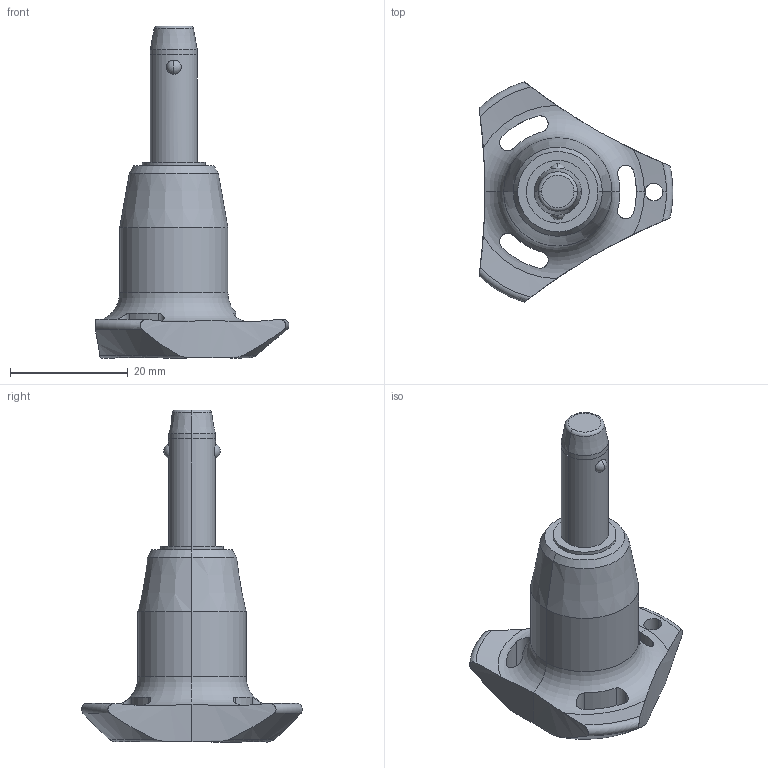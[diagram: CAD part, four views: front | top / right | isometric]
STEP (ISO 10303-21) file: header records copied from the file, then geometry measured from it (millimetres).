
FILE_DESCRIPTION (( 'STEP AP203' ), '1' );
FILE_NAME ('QR1736.M08-015-T.step', '2025-11-13T11:53:23', ( '' ), ( '' ), 'SwSTEP 2.0', 'SolidWorks 2019', '' );
FILE_SCHEMA (( 'CONFIG_CONTROL_DESIGN' ));
Length unit declared in the file: millimetre
Products named in the file (1): QR1736.M08-015-T
Bounding box: 33 x 37.51 x 56.5 mm (x, y, z)
Volume: 10731.8 mm3; surface area: 4360.9 mm2
Topology: 1 solids, 1 shells, 68 faces, 180 edges, 113 vertices
Faces by surface type: cylinder 32, cone 14, torus 11, sphere 6, plane 5
Entity records: 2811 total; most frequent: CARTESIAN_POINT 1071, ORIENTED_EDGE 360, DIRECTION 347, EDGE_CURVE 180, AXIS2_PLACEMENT_3D 154, VERTEX_POINT 113, CIRCLE 85, EDGE_LOOP 75
